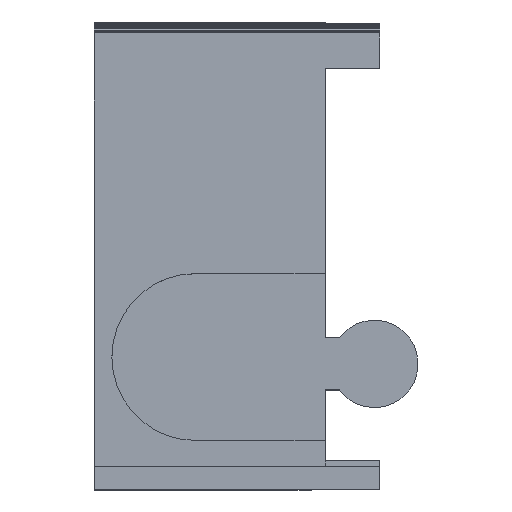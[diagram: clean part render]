
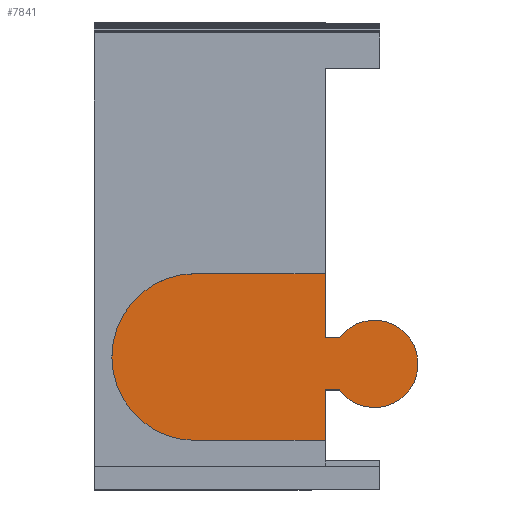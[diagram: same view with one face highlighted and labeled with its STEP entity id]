
A CAD part, top view. The second image highlights one B-rep face of the part: STEP entity #7841.
In plain terms, the highlighted planar face has unit normal (0, 0, 1).
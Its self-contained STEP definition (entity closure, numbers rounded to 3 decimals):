
#5110 = PLANE('',#5111);
#5111 = AXIS2_PLACEMENT_3D('',#5112,#5113,#5114);
#5112 = CARTESIAN_POINT('',(5.9,-168.1,23.35));
#5113 = DIRECTION('',(0.,1.,-0.));
#5114 = DIRECTION('',(-1.,0.,0.));
#5166 = PLANE('',#5167);
#5167 = AXIS2_PLACEMENT_3D('',#5168,#5169,#5170);
#5168 = CARTESIAN_POINT('',(1.9,-171.9,23.35));
#5169 = DIRECTION('',(0.,-1.,0.));
#5170 = DIRECTION('',(1.,0.,0.));
#5813 = PLANE('',#5814);
#5814 = AXIS2_PLACEMENT_3D('',#5815,#5816,#5817);
#5815 = CARTESIAN_POINT('',(1.9,-177.1,38.));
#5816 = DIRECTION('',(1.,0.,0.));
#5817 = DIRECTION('',(-0.,1.,0.));
#5841 = PLANE('',#5842);
#5842 = AXIS2_PLACEMENT_3D('',#5843,#5844,#5845);
#5843 = CARTESIAN_POINT('',(-7.6,-175.6,21.5));
#5844 = DIRECTION('',(-0.,1.,0.));
#5845 = DIRECTION('',(0.,0.,1.));
#5869 = CYLINDRICAL_SURFACE('',#5870,6.1);
#5870 = AXIS2_PLACEMENT_3D('',#5871,#5872,#5873);
#5871 = CARTESIAN_POINT('',(-7.6,-169.5,21.5));
#5872 = DIRECTION('',(0.,0.,1.));
#5873 = DIRECTION('',(1.,0.,-0.));
#5897 = PLANE('',#5898);
#5898 = AXIS2_PLACEMENT_3D('',#5899,#5900,#5901);
#5899 = CARTESIAN_POINT('',(-7.6,-163.4,21.5));
#5900 = DIRECTION('',(-0.,1.,0.));
#5901 = DIRECTION('',(0.,0.,1.));
#5923 = PLANE('',#5924);
#5924 = AXIS2_PLACEMENT_3D('',#5925,#5926,#5927);
#5925 = CARTESIAN_POINT('',(1.9,-168.1,38.));
#5926 = DIRECTION('',(1.,0.,0.));
#5927 = DIRECTION('',(-0.,1.,0.));
#6576 = VERTEX_POINT('',#6577);
#6577 = CARTESIAN_POINT('',(1.9,-171.9,21.5));
#6759 = VERTEX_POINT('',#6760);
#6760 = CARTESIAN_POINT('',(2.938,-171.9,21.5));
#6778 = CONICAL_SURFACE('',#6779,3.186,0.006);
#6779 = AXIS2_PLACEMENT_3D('',#6780,#6781,#6782);
#6780 = CARTESIAN_POINT('',(5.5,-170.,21.));
#6781 = DIRECTION('',(0.,0.,1.));
#6782 = DIRECTION('',(1.,0.,-0.));
#6792 = EDGE_CURVE('',#6576,#6759,#6793,.T.);
#6793 = SURFACE_CURVE('',#6794,(#6798,#6805),.PCURVE_S1.);
#6794 = LINE('',#6795,#6796);
#6795 = CARTESIAN_POINT('',(-2.85,-171.9,21.5));
#6796 = VECTOR('',#6797,1.);
#6797 = DIRECTION('',(1.,0.,-0.));
#6798 = PCURVE('',#5166,#6799);
#6799 = DEFINITIONAL_REPRESENTATION('',(#6800),#6804);
#6800 = LINE('',#6801,#6802);
#6801 = CARTESIAN_POINT('',(-4.75,-1.85));
#6802 = VECTOR('',#6803,1.);
#6803 = DIRECTION('',(1.,0.));
#6804 = ( GEOMETRIC_REPRESENTATION_CONTEXT(2) 
PARAMETRIC_REPRESENTATION_CONTEXT() REPRESENTATION_CONTEXT('2D SPACE',''
  ) );
#6805 = PCURVE('',#6806,#6811);
#6806 = PLANE('',#6807);
#6807 = AXIS2_PLACEMENT_3D('',#6808,#6809,#6810);
#6808 = CARTESIAN_POINT('',(-7.6,-175.6,21.5));
#6809 = DIRECTION('',(0.,0.,1.));
#6810 = DIRECTION('',(1.,0.,-0.));
#6811 = DEFINITIONAL_REPRESENTATION('',(#6812),#6815);
#6812 = B_SPLINE_CURVE_WITH_KNOTS('',1,(#6813,#6814),.UNSPECIFIED.,.F.,
  .F.,(2,2),(4.75,5.792),.PIECEWISE_BEZIER_KNOTS.);
#6813 = CARTESIAN_POINT('',(9.5,3.7));
#6814 = CARTESIAN_POINT('',(10.542,3.7));
#6815 = ( GEOMETRIC_REPRESENTATION_CONTEXT(2) 
PARAMETRIC_REPRESENTATION_CONTEXT() REPRESENTATION_CONTEXT('2D SPACE',''
  ) );
#6879 = VERTEX_POINT('',#6880);
#6880 = CARTESIAN_POINT('',(2.938,-168.1,21.5));
#7019 = VERTEX_POINT('',#7020);
#7020 = CARTESIAN_POINT('',(1.9,-168.1,21.5));
#7038 = EDGE_CURVE('',#6879,#7019,#7039,.T.);
#7039 = SURFACE_CURVE('',#7040,(#7044,#7051),.PCURVE_S1.);
#7040 = LINE('',#7041,#7042);
#7041 = CARTESIAN_POINT('',(-0.85,-168.1,21.5));
#7042 = VECTOR('',#7043,1.);
#7043 = DIRECTION('',(-1.,0.,0.));
#7044 = PCURVE('',#5110,#7045);
#7045 = DEFINITIONAL_REPRESENTATION('',(#7046),#7050);
#7046 = LINE('',#7047,#7048);
#7047 = CARTESIAN_POINT('',(6.75,-1.85));
#7048 = VECTOR('',#7049,1.);
#7049 = DIRECTION('',(1.,0.));
#7050 = ( GEOMETRIC_REPRESENTATION_CONTEXT(2) 
PARAMETRIC_REPRESENTATION_CONTEXT() REPRESENTATION_CONTEXT('2D SPACE',''
  ) );
#7051 = PCURVE('',#6806,#7052);
#7052 = DEFINITIONAL_REPRESENTATION('',(#7053),#7056);
#7053 = B_SPLINE_CURVE_WITH_KNOTS('',1,(#7054,#7055),.UNSPECIFIED.,.F.,
  .F.,(2,2),(-3.792,-2.75),.PIECEWISE_BEZIER_KNOTS.);
#7054 = CARTESIAN_POINT('',(10.542,7.5));
#7055 = CARTESIAN_POINT('',(9.5,7.5));
#7056 = ( GEOMETRIC_REPRESENTATION_CONTEXT(2) 
PARAMETRIC_REPRESENTATION_CONTEXT() REPRESENTATION_CONTEXT('2D SPACE',''
  ) );
#7347 = VERTEX_POINT('',#7348);
#7348 = CARTESIAN_POINT('',(1.9,-163.4,21.5));
#7369 = EDGE_CURVE('',#7019,#7347,#7370,.T.);
#7370 = SURFACE_CURVE('',#7371,(#7375,#7382),.PCURVE_S1.);
#7371 = LINE('',#7372,#7373);
#7372 = CARTESIAN_POINT('',(1.9,-171.85,21.5));
#7373 = VECTOR('',#7374,1.);
#7374 = DIRECTION('',(0.,1.,0.));
#7375 = PCURVE('',#5923,#7376);
#7376 = DEFINITIONAL_REPRESENTATION('',(#7377),#7381);
#7377 = LINE('',#7378,#7379);
#7378 = CARTESIAN_POINT('',(-3.75,-16.5));
#7379 = VECTOR('',#7380,1.);
#7380 = DIRECTION('',(1.,0.));
#7381 = ( GEOMETRIC_REPRESENTATION_CONTEXT(2) 
PARAMETRIC_REPRESENTATION_CONTEXT() REPRESENTATION_CONTEXT('2D SPACE',''
  ) );
#7382 = PCURVE('',#6806,#7383);
#7383 = DEFINITIONAL_REPRESENTATION('',(#7384),#7387);
#7384 = B_SPLINE_CURVE_WITH_KNOTS('',1,(#7385,#7386),.UNSPECIFIED.,.F.,
  .F.,(2,2),(3.75,8.45),.PIECEWISE_BEZIER_KNOTS.);
#7385 = CARTESIAN_POINT('',(9.5,7.5));
#7386 = CARTESIAN_POINT('',(9.5,12.2));
#7387 = ( GEOMETRIC_REPRESENTATION_CONTEXT(2) 
PARAMETRIC_REPRESENTATION_CONTEXT() REPRESENTATION_CONTEXT('2D SPACE',''
  ) );
#7397 = EDGE_CURVE('',#7398,#7347,#7400,.T.);
#7398 = VERTEX_POINT('',#7399);
#7399 = CARTESIAN_POINT('',(-7.6,-163.4,21.5));
#7400 = SURFACE_CURVE('',#7401,(#7405,#7412),.PCURVE_S1.);
#7401 = LINE('',#7402,#7403);
#7402 = CARTESIAN_POINT('',(-7.6,-163.4,21.5));
#7403 = VECTOR('',#7404,1.);
#7404 = DIRECTION('',(1.,0.,-0.));
#7405 = PCURVE('',#5897,#7406);
#7406 = DEFINITIONAL_REPRESENTATION('',(#7407),#7411);
#7407 = LINE('',#7408,#7409);
#7408 = CARTESIAN_POINT('',(0.,0.));
#7409 = VECTOR('',#7410,1.);
#7410 = DIRECTION('',(0.,1.));
#7411 = ( GEOMETRIC_REPRESENTATION_CONTEXT(2) 
PARAMETRIC_REPRESENTATION_CONTEXT() REPRESENTATION_CONTEXT('2D SPACE',''
  ) );
#7412 = PCURVE('',#6806,#7413);
#7413 = DEFINITIONAL_REPRESENTATION('',(#7414),#7418);
#7414 = LINE('',#7415,#7416);
#7415 = CARTESIAN_POINT('',(0.,12.2));
#7416 = VECTOR('',#7417,1.);
#7417 = DIRECTION('',(1.,0.));
#7418 = ( GEOMETRIC_REPRESENTATION_CONTEXT(2) 
PARAMETRIC_REPRESENTATION_CONTEXT() REPRESENTATION_CONTEXT('2D SPACE',''
  ) );
#7447 = EDGE_CURVE('',#7398,#7448,#7450,.T.);
#7448 = VERTEX_POINT('',#7449);
#7449 = CARTESIAN_POINT('',(-7.6,-175.6,21.5));
#7450 = SURFACE_CURVE('',#7451,(#7456,#7463),.PCURVE_S1.);
#7451 = CIRCLE('',#7452,6.1);
#7452 = AXIS2_PLACEMENT_3D('',#7453,#7454,#7455);
#7453 = CARTESIAN_POINT('',(-7.6,-169.5,21.5));
#7454 = DIRECTION('',(0.,0.,1.));
#7455 = DIRECTION('',(1.,0.,-0.));
#7456 = PCURVE('',#5869,#7457);
#7457 = DEFINITIONAL_REPRESENTATION('',(#7458),#7462);
#7458 = LINE('',#7459,#7460);
#7459 = CARTESIAN_POINT('',(0.,0.));
#7460 = VECTOR('',#7461,1.);
#7461 = DIRECTION('',(1.,0.));
#7462 = ( GEOMETRIC_REPRESENTATION_CONTEXT(2) 
PARAMETRIC_REPRESENTATION_CONTEXT() REPRESENTATION_CONTEXT('2D SPACE',''
  ) );
#7463 = PCURVE('',#6806,#7464);
#7464 = DEFINITIONAL_REPRESENTATION('',(#7465),#7469);
#7465 = CIRCLE('',#7466,6.1);
#7466 = AXIS2_PLACEMENT_2D('',#7467,#7468);
#7467 = CARTESIAN_POINT('',(0.,6.1));
#7468 = DIRECTION('',(1.,0.));
#7469 = ( GEOMETRIC_REPRESENTATION_CONTEXT(2) 
PARAMETRIC_REPRESENTATION_CONTEXT() REPRESENTATION_CONTEXT('2D SPACE',''
  ) );
#7498 = VERTEX_POINT('',#7499);
#7499 = CARTESIAN_POINT('',(1.9,-175.6,21.5));
#7519 = EDGE_CURVE('',#7448,#7498,#7520,.T.);
#7520 = SURFACE_CURVE('',#7521,(#7525,#7532),.PCURVE_S1.);
#7521 = LINE('',#7522,#7523);
#7522 = CARTESIAN_POINT('',(-7.6,-175.6,21.5));
#7523 = VECTOR('',#7524,1.);
#7524 = DIRECTION('',(1.,0.,-0.));
#7525 = PCURVE('',#5841,#7526);
#7526 = DEFINITIONAL_REPRESENTATION('',(#7527),#7531);
#7527 = LINE('',#7528,#7529);
#7528 = CARTESIAN_POINT('',(0.,0.));
#7529 = VECTOR('',#7530,1.);
#7530 = DIRECTION('',(0.,1.));
#7531 = ( GEOMETRIC_REPRESENTATION_CONTEXT(2) 
PARAMETRIC_REPRESENTATION_CONTEXT() REPRESENTATION_CONTEXT('2D SPACE',''
  ) );
#7532 = PCURVE('',#6806,#7533);
#7533 = DEFINITIONAL_REPRESENTATION('',(#7534),#7538);
#7534 = LINE('',#7535,#7536);
#7535 = CARTESIAN_POINT('',(0.,0.));
#7536 = VECTOR('',#7537,1.);
#7537 = DIRECTION('',(1.,0.));
#7538 = ( GEOMETRIC_REPRESENTATION_CONTEXT(2) 
PARAMETRIC_REPRESENTATION_CONTEXT() REPRESENTATION_CONTEXT('2D SPACE',''
  ) );
#7679 = EDGE_CURVE('',#7498,#6576,#7680,.T.);
#7680 = SURFACE_CURVE('',#7681,(#7685,#7692),.PCURVE_S1.);
#7681 = LINE('',#7682,#7683);
#7682 = CARTESIAN_POINT('',(1.9,-176.65,21.5));
#7683 = VECTOR('',#7684,1.);
#7684 = DIRECTION('',(0.,1.,0.));
#7685 = PCURVE('',#5813,#7686);
#7686 = DEFINITIONAL_REPRESENTATION('',(#7687),#7691);
#7687 = LINE('',#7688,#7689);
#7688 = CARTESIAN_POINT('',(0.45,-16.5));
#7689 = VECTOR('',#7690,1.);
#7690 = DIRECTION('',(1.,0.));
#7691 = ( GEOMETRIC_REPRESENTATION_CONTEXT(2) 
PARAMETRIC_REPRESENTATION_CONTEXT() REPRESENTATION_CONTEXT('2D SPACE',''
  ) );
#7692 = PCURVE('',#6806,#7693);
#7693 = DEFINITIONAL_REPRESENTATION('',(#7694),#7697);
#7694 = B_SPLINE_CURVE_WITH_KNOTS('',1,(#7695,#7696),.UNSPECIFIED.,.F.,
  .F.,(2,2),(1.05,4.75),.PIECEWISE_BEZIER_KNOTS.);
#7695 = CARTESIAN_POINT('',(9.5,0.));
#7696 = CARTESIAN_POINT('',(9.5,3.7));
#7697 = ( GEOMETRIC_REPRESENTATION_CONTEXT(2) 
PARAMETRIC_REPRESENTATION_CONTEXT() REPRESENTATION_CONTEXT('2D SPACE',''
  ) );
#7817 = EDGE_CURVE('',#6759,#6879,#7818,.T.);
#7818 = SURFACE_CURVE('',#7819,(#7824,#7831),.PCURVE_S1.);
#7819 = CIRCLE('',#7820,3.189);
#7820 = AXIS2_PLACEMENT_3D('',#7821,#7822,#7823);
#7821 = CARTESIAN_POINT('',(5.5,-170.,21.5));
#7822 = DIRECTION('',(0.,0.,1.));
#7823 = DIRECTION('',(-0.803,-0.596,
    0.));
#7824 = PCURVE('',#6778,#7825);
#7825 = DEFINITIONAL_REPRESENTATION('',(#7826),#7830);
#7826 = LINE('',#7827,#7828);
#7827 = CARTESIAN_POINT('',(3.78,0.5));
#7828 = VECTOR('',#7829,1.);
#7829 = DIRECTION('',(1.,0.));
#7830 = ( GEOMETRIC_REPRESENTATION_CONTEXT(2) 
PARAMETRIC_REPRESENTATION_CONTEXT() REPRESENTATION_CONTEXT('2D SPACE',''
  ) );
#7831 = PCURVE('',#6806,#7832);
#7832 = DEFINITIONAL_REPRESENTATION('',(#7833),#7837);
#7833 = CIRCLE('',#7834,3.189);
#7834 = AXIS2_PLACEMENT_2D('',#7835,#7836);
#7835 = CARTESIAN_POINT('',(13.1,5.6));
#7836 = DIRECTION('',(-0.803,-0.596));
#7837 = ( GEOMETRIC_REPRESENTATION_CONTEXT(2) 
PARAMETRIC_REPRESENTATION_CONTEXT() REPRESENTATION_CONTEXT('2D SPACE',''
  ) );
#7841 = ADVANCED_FACE('',(#7842),#6806,.T.);
#7842 = FACE_BOUND('',#7843,.T.);
#7843 = EDGE_LOOP('',(#7844,#7845,#7846,#7847,#7848,#7849,#7850,#7851));
#7844 = ORIENTED_EDGE('',*,*,#7447,.T.);
#7845 = ORIENTED_EDGE('',*,*,#7519,.T.);
#7846 = ORIENTED_EDGE('',*,*,#7679,.T.);
#7847 = ORIENTED_EDGE('',*,*,#6792,.T.);
#7848 = ORIENTED_EDGE('',*,*,#7817,.T.);
#7849 = ORIENTED_EDGE('',*,*,#7038,.T.);
#7850 = ORIENTED_EDGE('',*,*,#7369,.T.);
#7851 = ORIENTED_EDGE('',*,*,#7397,.F.);
